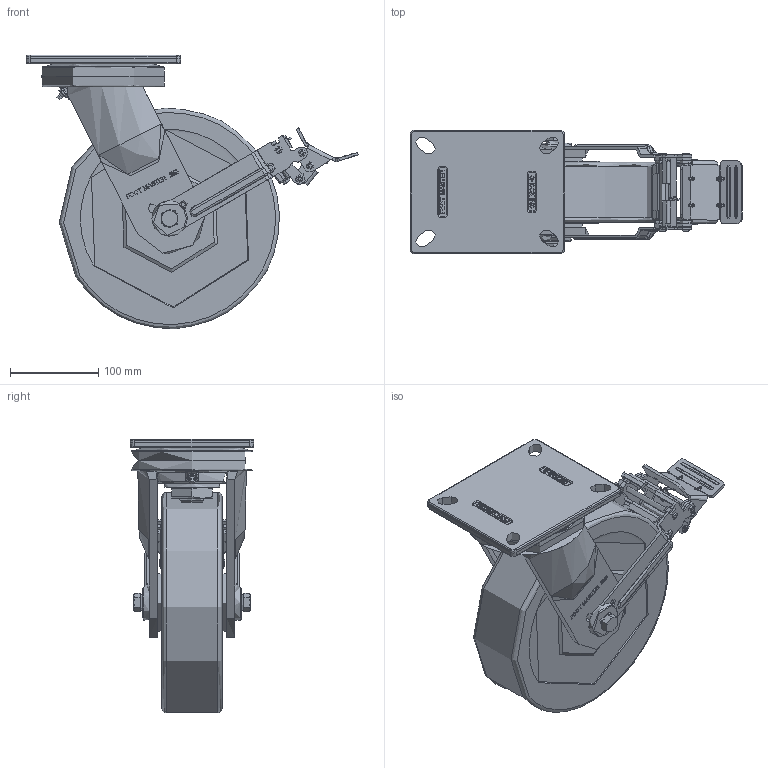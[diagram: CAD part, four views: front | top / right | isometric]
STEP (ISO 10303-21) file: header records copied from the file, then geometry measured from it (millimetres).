
FILE_DESCRIPTION(/* description */ (''),/* implementation_level */ '2;1');
FILE_NAME(/* name */ 'Y:\1.기술연구소\2.연구개발 진행중\133.고하중캐스터 브레이크 타입 변경건_2025.11.03\1.도면\4.홈페이지용 도면\01. 3D\GXT-250 SERIES\GXT-250-STEP\GXT-250-BSF-MCD-TB.stp',/* time_stamp */ '2026-07-22T07:53:09+09:00',/* author */ ('장용하'),/* organization */ (''),/* preprocessor_version */ 'ST-DEVELOPER v18.1',/* originating_system */ 'Autodesk Inventor 2021',/* authorisation */ '');
FILE_SCHEMA (('CONFIG_CONTROL_DESIGN'));
Length unit declared in the file: millimetre
Products named in the file (1): GXT-250-BSF-MCD-TB
Bounding box: 375.69 x 140 x 309.91 mm (x, y, z)
Topology: 1 solids, 5 shells, 1767 faces, 4734 edges, 3063 vertices
Faces by surface type: plane 715, bspline 502, cylinder 434, torus 70, cone 34, sphere 12
Full cylindrical faces by diameter (mm): 2 x7, 4 x7, 6 x2, 6.2 x14, 6.3 x2, 6.5 x2, 6.8 x4, 8 x6, 8.5 x6, 12 x2, 13 x2, 30 x1, 40 x2, 62.5 x1, 65 x2, 131.086 x1, 250 x1
Entity records: 60984 total; most frequent: CARTESIAN_POINT 19021, ORIENTED_EDGE 9464, DIRECTION 7599, EDGE_CURVE 4732, VERTEX_POINT 3062, AXIS2_PLACEMENT_3D 2584, LINE 2431, VECTOR 2431
